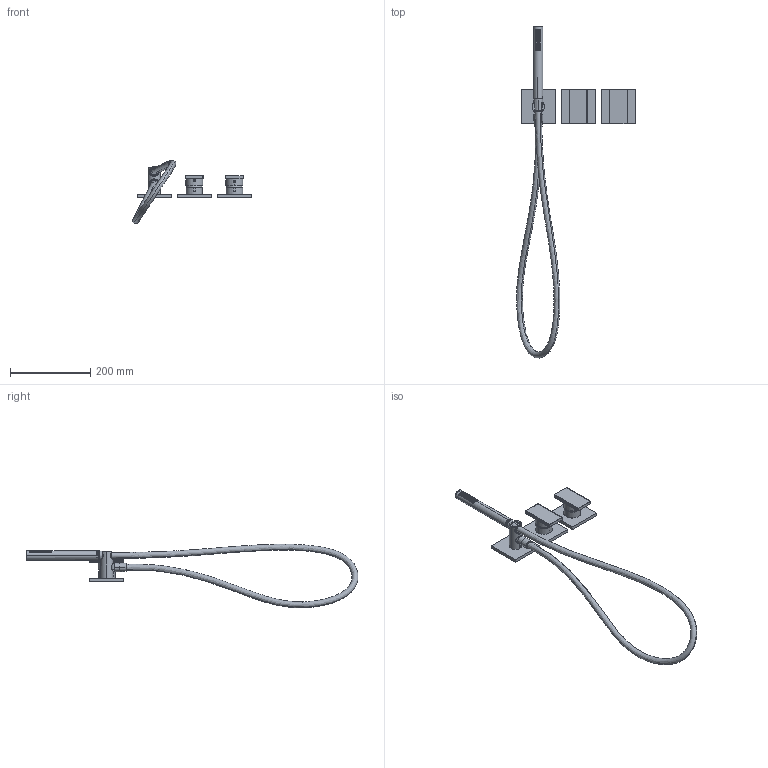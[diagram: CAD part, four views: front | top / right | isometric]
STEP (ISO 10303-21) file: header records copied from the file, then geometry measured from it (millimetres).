
FILE_DESCRIPTION((''),'2;1');
FILE_NAME('49000P784B000000_SW0001','2023-05-11T10:31:00',('matteo.follador'),(''),'CREO PARAMETRIC BY PTC INC, 2022424','CREO PARAMETRIC BY PTC INC, 2022424','');
FILE_SCHEMA(('AUTOMOTIVE_DESIGN { 1 0 10303 214 1 1 1 1 }'));
Products named in the file (1): 49000P784B000000_SW0001
Bounding box: 296.73 x 828.2 x 158.52 mm (x, y, z)
Volume: 622881.3 mm3; surface area: 187695.2 mm2
Topology: 5 solids, 5 shells, 4496 faces, 9416 edges, 4966 vertices
Faces by surface type: plane 3358, cylinder 700, cone 179, bspline 130, torus 98, sphere 29, extrusion 2
Entity records: 193471 total; most frequent: CARTESIAN_POINT 71692, ORIENTED_EDGE 18820, DIRECTION 16994, EDGE_CURVE 9410, VECTOR 6951, LINE 6949, AXIS2_PLACEMENT_3D 5020, VERTEX_POINT 4966
